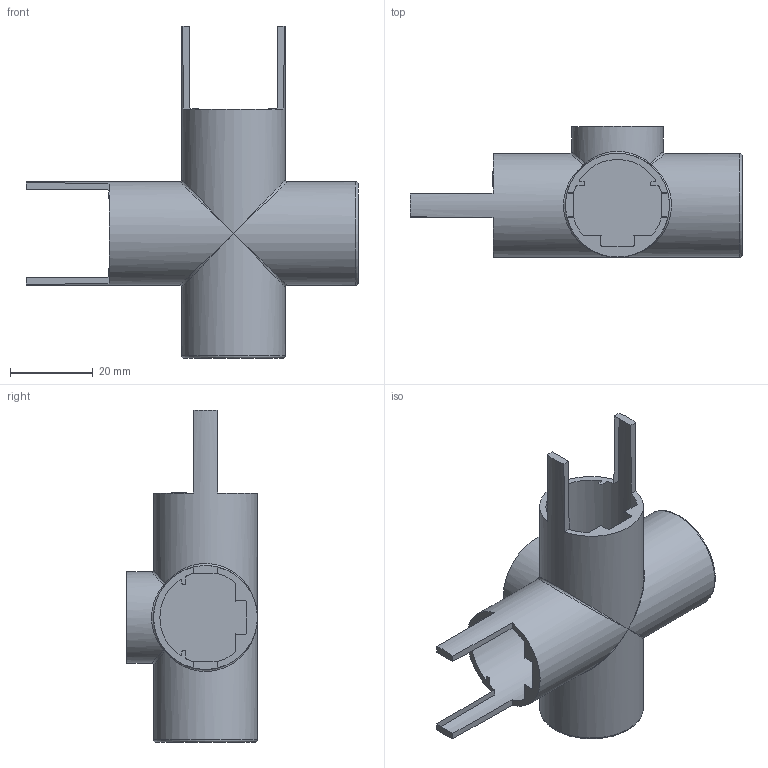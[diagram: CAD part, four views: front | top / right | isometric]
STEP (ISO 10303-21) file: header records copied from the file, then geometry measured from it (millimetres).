
FILE_DESCRIPTION(/* description */ (''),/* implementation_level */ '2;1');
FILE_NAME(/* name */ 'S:\UFFICIO TECNICO 2019\PRODOTTI ROTALIANA\SOUVLAKI\FILES 3D STEP_tutti componenti souvlaki\ASVGL_connettore angolare.stp',/* time_stamp */ '2024-03-13T16:01:37+01:00',/* author */ ('mtesta'),/* organization */ (''),/* preprocessor_version */ 'ST-DEVELOPER v18.1',/* originating_system */ 'Autodesk Inventor 2021',/* authorisation */ '');
FILE_SCHEMA (('AUTOMOTIVE_DESIGN { 1 0 10303 214 3 1 1 }'));
Length unit declared in the file: millimetre
Products named in the file (1): Parte676
Bounding box: 80 x 31.5 x 80 mm (x, y, z)
Surface area: 9088.8 mm2 (no closed solid volume)
Topology: 0 solids, 1 shells, 39 faces, 182 edges, 139 vertices
Faces by surface type: plane 19, bspline 8, cylinder 5, sphere 4, torus 2, cone 1
Full cylindrical faces by diameter (mm): 22 x1, 25 x4
Entity records: 2375 total; most frequent: CARTESIAN_POINT 899, DIRECTION 288, ORIENTED_EDGE 266, EDGE_CURVE 178, VERTEX_POINT 139, AXIS2_PLACEMENT_3D 107, LINE 74, VECTOR 74
